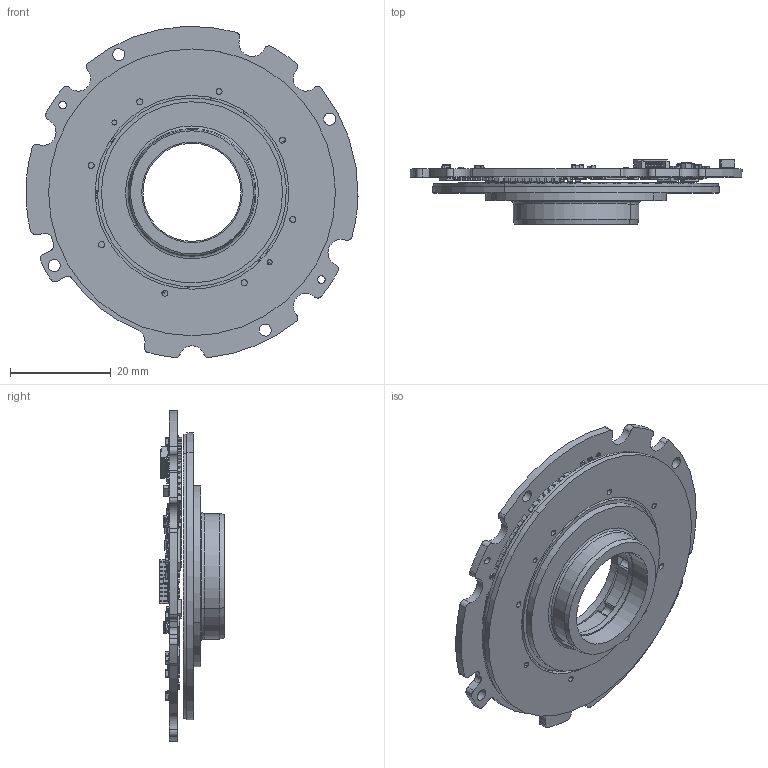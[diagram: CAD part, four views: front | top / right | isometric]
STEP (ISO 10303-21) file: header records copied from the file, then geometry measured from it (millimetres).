
FILE_DESCRIPTION((''),'2;1');
FILE_NAME('ASM0001_ASM','2025-07-24T',('Administrator'),(''),'PRO/ENGINEER BY PARAMETRIC TECHNOLOGY CORPORATION, 2014000','PRO/ENGINEER BY PARAMETRIC TECHNOLOGY CORPORATION, 2014000','');
FILE_SCHEMA(('CONFIG_CONTROL_DESIGN'));
Products named in the file (676): PRT0028_1_1; ____-____-____-14_____STP_STP_1; 14辦鎢攫-坶_1_1_ASM; ____-____-14____-0_STP_1_1; ____-____-14_____STP_1_1; ____-____-14_____ASM_STP_ASM_1__ASM; PRT0296_1_6; BOARD_ASM_1_ASM_ASM_1_ASM_1_ASM; ASM0002_ASM_3_ASM_ASM_1_ASM_2_ASM; 1X1_6X0_95_RGB0_1; A10_ASM_1_ASM; A11_ASM_1_ASM; A12_ASM_1_ASM; A13_ASM_1_ASM; A14_ASM_1_ASM; A15_ASM_1_ASM; A16_ASM_1_ASM; A17_ASM_1_ASM; A18_ASM_1_ASM; A19_ASM_1_ASM; A20_ASM_1_ASM; A21_ASM_1_ASM; A22_ASM_1_ASM; A23_ASM_1_ASM; A24_ASM_1_ASM; A25_ASM_1_ASM; A26_ASM_1_ASM; A27_ASM_1_ASM; A28_ASM_1_ASM; A29_ASM_1_ASM; A30_ASM_1_ASM; A31_ASM_1_ASM; A32_ASM_1_ASM; A33_ASM_1_ASM; A34_ASM_1_ASM; OPEN_CASCADE_STEP_TRANSLAT-3573; OPEN_CASCADE_STEP_TRANSLAT-4046; TERMINAL-3559_ASM_1_ASM; OPEN_CASCADE_STEP_TRANSLAT-4542; MID_BODY-4532_ASM_1_ASM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
Assembly tree (791 placements, depth 10):
  ASM0001_ASM
    14辦鎢攫-坶_1_1_ASM
      PRT0028_1_1
      ____-____-____-14_____STP_STP_1
    ____-____-14_____ASM_STP_ASM_1__ASM
      ____-____-14____-0_STP_1_1
      ____-____-14_____STP_1_1
    PCBAｰ蘋AS_3_ASM
      ﾏ｣ｴﾅ-PCBｰ螢ｨ202504_1_2_ASM
        ASM0002_ASM_3_ASM_ASM_1_ASM_2_ASM
          BOARD_ASM_1_ASM_ASM_1_ASM_1_ASM
            PRT0296_1_6
        啋ん璃淏_1_ASM
          A10_ASM_1_ASM
            1X1_6X0_95_RGB0_1
          A11_ASM_1_ASM
            1X1_6X0_95_RGB0_1
          A12_ASM_1_ASM
            1X1_6X0_95_RGB0_1
          A13_ASM_1_ASM
            1X1_6X0_95_RGB0_1
          A14_ASM_1_ASM
            1X1_6X0_95_RGB0_1
          A15_ASM_1_ASM
            1X1_6X0_95_RGB0_1
          A16_ASM_1_ASM
            1X1_6X0_95_RGB0_1
          A17_ASM_1_ASM
            1X1_6X0_95_RGB0_1
          A18_ASM_1_ASM
            1X1_6X0_95_RGB0_1
          A19_ASM_1_ASM
            1X1_6X0_95_RGB0_1
          A20_ASM_1_ASM
            1X1_6X0_95_RGB0_1
          A21_ASM_1_ASM
            1X1_6X0_95_RGB0_1
          A22_ASM_1_ASM
            1X1_6X0_95_RGB0_1
          A23_ASM_1_ASM
            1X1_6X0_95_RGB0_1
          A24_ASM_1_ASM
            1X1_6X0_95_RGB0_1
          A25_ASM_1_ASM
            1X1_6X0_95_RGB0_1
          A26_ASM_1_ASM
            1X1_6X0_95_RGB0_1
          A27_ASM_1_ASM
            1X1_6X0_95_RGB0_1
          A28_ASM_1_ASM
            1X1_6X0_95_RGB0_1
          A29_ASM_1_ASM
            1X1_6X0_95_RGB0_1
          A30_ASM_1_ASM
            1X1_6X0_95_RGB0_1
          A31_ASM_1_ASM
            1X1_6X0_95_RGB0_1
          A32_ASM_1_ASM
            1X1_6X0_95_RGB0_1
          A33_ASM_1_ASM
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Bounding box: 65.98 x 12.81 x 65.79 mm (x, y, z)
Volume: 10455.4 mm3; surface area: 18735 mm2
Topology: 588 solids, 600 shells, 9246 faces, 23102 edges, 14588 vertices
Faces by surface type: plane 6953, cylinder 1749, sphere 516, torus 24, cone 4
Entity records: 220456 total; most frequent: DIRECTION 33939, CARTESIAN_POINT 31840, ORIENTED_EDGE 28766, EDGE_CURVE 14383, AXIS2_PLACEMENT_3D 11618, VECTOR 10703, LINE 10703, VERTEX_POINT 9294
